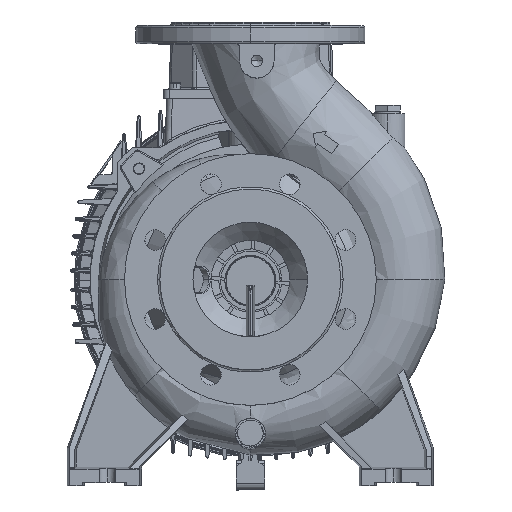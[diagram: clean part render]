
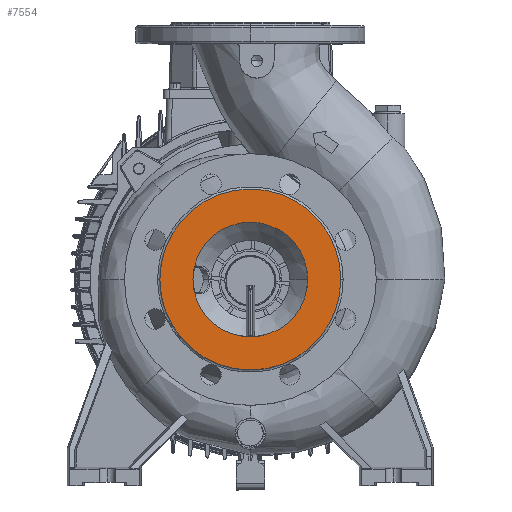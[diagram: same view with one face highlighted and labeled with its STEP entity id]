
A CAD part, top view. The second image highlights one B-rep face of the part: STEP entity #7554.
In plain terms, the highlighted planar face has unit normal (0, 0, 1).
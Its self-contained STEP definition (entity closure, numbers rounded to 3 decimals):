
#2118 = ORIENTED_EDGE ( 'NONE', *, *, #6385, .F. ) ;
#2154 = EDGE_CURVE ( 'NONE', #129135, #106111, #99184, .T. ) ;
#6385 = EDGE_CURVE ( 'NONE', #75816, #74939, #16872, .T. ) ;
#7029 = CARTESIAN_POINT ( 'NONE',  ( 0., 0., 125. ) ) ;
#7078 = CARTESIAN_POINT ( 'NONE',  ( 0., 0., 125. ) ) ;
#7554 = ADVANCED_FACE ( 'NONE', ( #96900, #86968 ), #17442, .F. ) ;
#13714 = AXIS2_PLACEMENT_3D ( 'NONE', #7078, #100276, #53767 ) ;
#15182 = DIRECTION ( 'NONE',  ( 0., 0., -1. ) ) ;
#16872 = CIRCLE ( 'NONE', #55947, 79. ) ;
#17442 = PLANE ( 'NONE',  #119556 ) ;
#28666 = AXIS2_PLACEMENT_3D ( 'NONE', #106715, #105977, #34977 ) ;
#32848 = EDGE_LOOP ( 'NONE', ( #2118, #120822 ) ) ;
#34977 = DIRECTION ( 'NONE',  ( -1., 0., 0. ) ) ;
#36900 = CIRCLE ( 'NONE', #100311, 50.099 ) ;
#42012 = CARTESIAN_POINT ( 'NONE',  ( 0., 0., 125. ) ) ;
#42754 = DIRECTION ( 'NONE',  ( -1., 0., 0. ) ) ;
#53709 = DIRECTION ( 'NONE',  ( -1., 0., 0. ) ) ;
#53767 = DIRECTION ( 'NONE',  ( -1., 0., 0. ) ) ;
#55947 = AXIS2_PLACEMENT_3D ( 'NONE', #42012, #125918, #42754 ) ;
#58248 = EDGE_CURVE ( 'NONE', #74939, #75816, #116443, .T. ) ;
#60423 = CARTESIAN_POINT ( 'NONE',  ( 79., 0., 125. ) ) ;
#66795 = CARTESIAN_POINT ( 'NONE',  ( -50.099, 0., 125. ) ) ;
#74939 = VERTEX_POINT ( 'NONE', #60423 ) ;
#75816 = VERTEX_POINT ( 'NONE', #130758 ) ;
#80565 = EDGE_CURVE ( 'NONE', #106111, #129135, #36900, .T. ) ;
#86968 = FACE_OUTER_BOUND ( 'NONE', #32848, .T. ) ;
#96900 = FACE_BOUND ( 'NONE', #115341, .T. ) ;
#96941 = CARTESIAN_POINT ( 'NONE',  ( 50.099, 0., 125. ) ) ;
#99184 = CIRCLE ( 'NONE', #13714, 50.099 ) ;
#100276 = DIRECTION ( 'NONE',  ( 0., 0., 1. ) ) ;
#100311 = AXIS2_PLACEMENT_3D ( 'NONE', #7029, #145262, #53709 ) ;
#103649 = ORIENTED_EDGE ( 'NONE', *, *, #2154, .F. ) ;
#105977 = DIRECTION ( 'NONE',  ( 0., 0., -1. ) ) ;
#106111 = VERTEX_POINT ( 'NONE', #96941 ) ;
#106715 = CARTESIAN_POINT ( 'NONE',  ( 0., 0., 125. ) ) ;
#108349 = CARTESIAN_POINT ( 'NONE',  ( 0., 110., 125. ) ) ;
#110615 = DIRECTION ( 'NONE',  ( -1., 0., 0. ) ) ;
#115341 = EDGE_LOOP ( 'NONE', ( #103649, #123814 ) ) ;
#116443 = CIRCLE ( 'NONE', #28666, 79. ) ;
#119556 = AXIS2_PLACEMENT_3D ( 'NONE', #108349, #15182, #110615 ) ;
#120822 = ORIENTED_EDGE ( 'NONE', *, *, #58248, .F. ) ;
#123814 = ORIENTED_EDGE ( 'NONE', *, *, #80565, .F. ) ;
#125918 = DIRECTION ( 'NONE',  ( 0., 0., -1. ) ) ;
#129135 = VERTEX_POINT ( 'NONE', #66795 ) ;
#130758 = CARTESIAN_POINT ( 'NONE',  ( -79., 0., 125. ) ) ;
#145262 = DIRECTION ( 'NONE',  ( 0., 0., 1. ) ) ;
